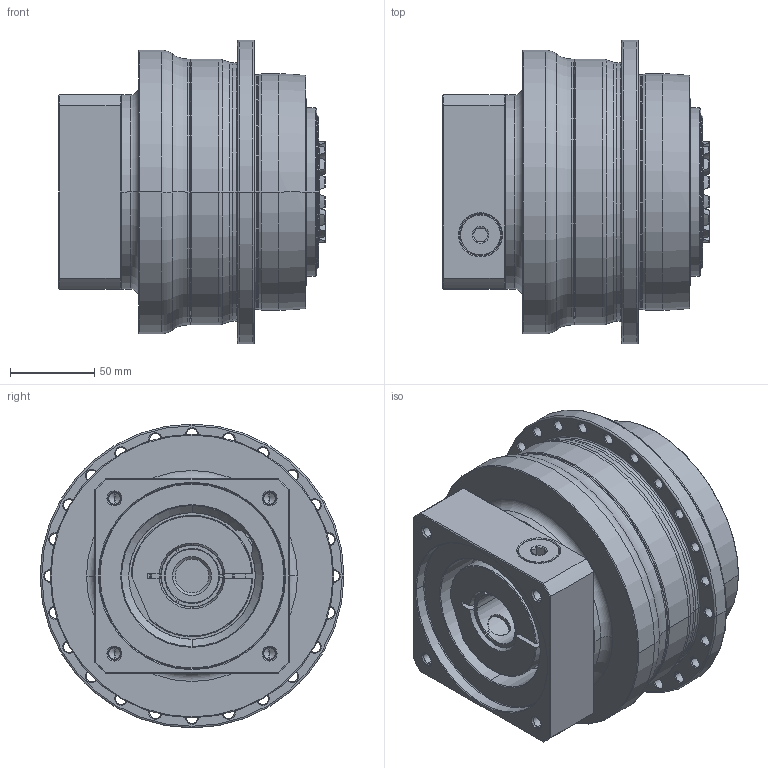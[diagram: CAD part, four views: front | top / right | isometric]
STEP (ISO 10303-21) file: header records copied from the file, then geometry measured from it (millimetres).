
FILE_DESCRIPTION((''),'2;1');
FILE_NAME('APC140_1ST_32-P0409710201_ASM','2018-06-26T',('d01226'),(''),'PRO/ENGINEER BY PARAMETRIC TECHNOLOGY CORPORATION, 2008410','PRO/ENGINEER BY PARAMETRIC TECHNOLOGY CORPORATION, 2008410','');
FILE_SCHEMA(('CONFIG_CONTROL_DESIGN'));
Length unit declared in the file: millimetre
Products named in the file (9): P0278501003; P03595D0103; P1318510201; P0503700010; P0912552001; P1211500001; P0409710201; 21711418017; APC140_1ST_32-P0409710201_ASM
Assembly tree (8 placements, depth 2):
  APC140_1ST_32-P0409710201_ASM
    P0278501003
    P03595D0103
    P1318510201
    P0503700010
    P0912552001
    P1211500001
    P0409710201
    21711418017
Bounding box: 158.1 x 180 x 180 mm (x, y, z)
Volume: 2311554 mm3; surface area: 303145.2 mm2
Topology: 9 solids, 19 shells, 673 faces, 1625 edges, 991 vertices
Faces by surface type: cone 223, cylinder 211, plane 122, torus 103, bspline 14
Entity records: 24984 total; most frequent: CARTESIAN_POINT 8850, DIRECTION 3605, ORIENTED_EDGE 3172, EDGE_CURVE 1607, AXIS2_PLACEMENT_3D 1565, VERTEX_POINT 991, CIRCLE 879, EDGE_LOOP 776
